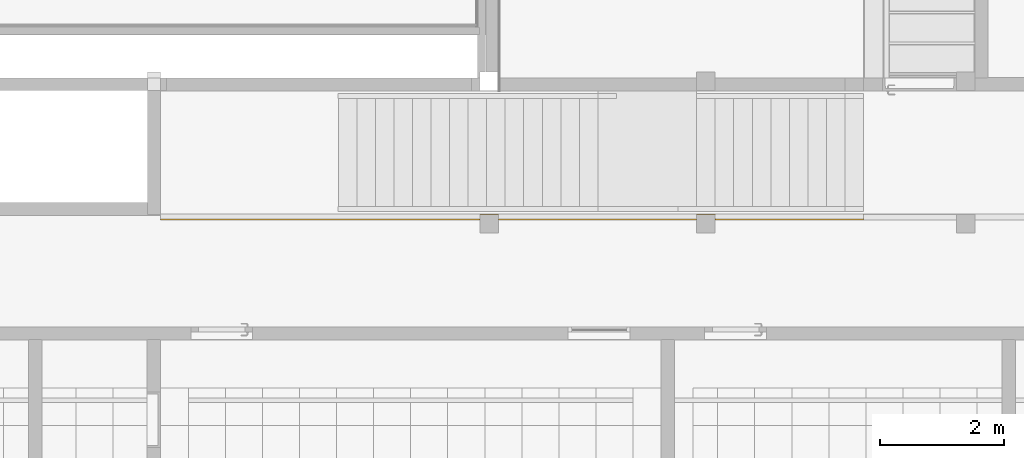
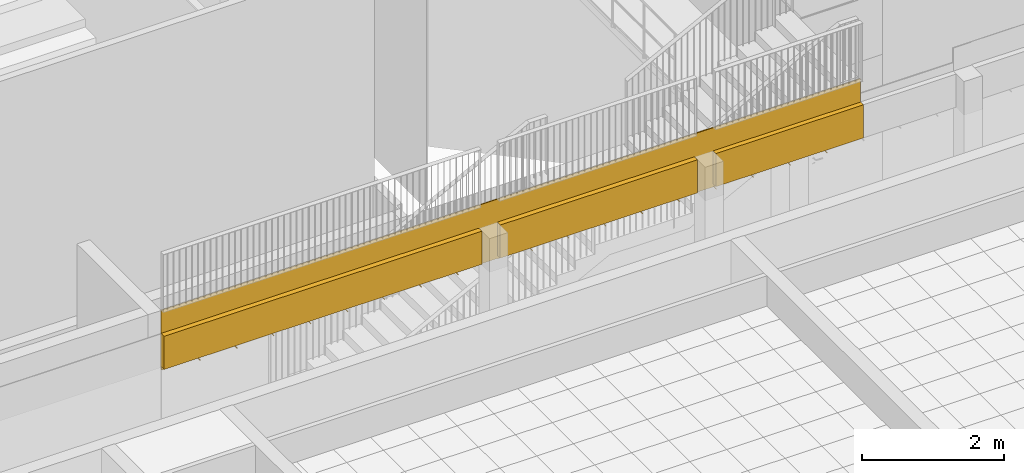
# One storey, part 170 of 246: 1 covering.
"""IFC2X3 building model written with IfcOpenShell, lengths in millimetres."""

import ifcopenshell
import ifcopenshell.guid

model = None  # the IFC model being written
_history = None  # IfcOwnerHistory: only IFC2X3 demands one
_inside = {}  # id of a spatial element -> (the spatial element, [elements in it])
_under = {}  # id of a project, library or spatial element -> (it, [spatial elements below it])
_declared = {}  # id of a project -> (the project, [libraries it declares])
_typed = {}  # id of a type object -> (the type object, [elements of that type])
_made_of = {}  # id of a material, layer set ... -> (it, [elements and type objects made of it])


def new_model(schema):
    """Start an empty IFC model of exactly this schema.

    Asked for "IFC4X3", IfcOpenShell would pick the latest addendum, in which some entities
    have other attributes; the version numbers below select the first issue.
    IFC2X3 requires an IfcOwnerHistory on every rooted entity: one is made here for all.
    """
    global model, _history
    if schema == "IFC4X3":
        model = ifcopenshell.file(schema_version=(4, 3, 0, 0))
    else:
        model = ifcopenshell.file(schema=schema)
    _inside.clear()
    _under.clear()
    _declared.clear()
    _typed.clear()
    _made_of.clear()
    _history = None
    if model.schema == "IFC2X3":
        org = make("IfcOrganization", Name="unknown")
        user = make(
            "IfcPersonAndOrganization",
            ThePerson=make("IfcPerson", FamilyName="unknown"),
            TheOrganization=org,
        )
        app = make(
            "IfcApplication",
            ApplicationDeveloper=org,
            Version="unknown",
            ApplicationFullName="unknown",
            ApplicationIdentifier="unknown",
        )
        _history = make(
            "IfcOwnerHistory",
            OwningUser=user,
            OwningApplication=app,
            ChangeAction="ADDED",
            CreationDate=0,
        )
    return model


def make(cls, **values):
    """One entity of the class cls with the attributes given. An attribute that is None is left unset."""
    return model.create_entity(
        cls, **{name: value for name, value in values.items() if value is not None}
    )


def entity(cls, *values):
    """Any entity or typed value of the class cls, its attributes in the order of the schema. None: left unset."""
    e = model.create_entity(cls)
    for i, value in enumerate(values):
        if value is not None:
            e[i] = value
    return e


def rooted(cls, **values):
    """An entity with a GlobalId (a new one), such as an element, a storey or a relation."""
    return make(cls, GlobalId=ifcopenshell.guid.new(), OwnerHistory=_history, **values)


def si_unit(unit_type, name, prefix=None):
    """IfcSIUnit, for example si_unit("LENGTHUNIT", "METRE", prefix="MILLI")."""
    return make("IfcSIUnit", UnitType=unit_type, Prefix=prefix, Name=name)


def converted_unit(unit_type, name, factor, base, dimensions=None, offset=None):
    """IfcConversionBasedUnit, such as the inch: factor (a typed value) times the base unit."""
    return make(
        "IfcConversionBasedUnit"
        if offset is None
        else "IfcConversionBasedUnitWithOffset",
        ConversionOffset=offset,
        Dimensions=None
        if dimensions is None
        else entity("IfcDimensionalExponents", *dimensions),
        UnitType=unit_type,
        Name=name,
        ConversionFactor=make(
            "IfcMeasureWithUnit", ValueComponent=factor, UnitComponent=base
        ),
    )


def derived_unit(unit_type, elements):
    """IfcDerivedUnit: a product of units, each with its exponent."""
    return make(
        "IfcDerivedUnit",
        Elements=[
            make("IfcDerivedUnitElement", Unit=unit, Exponent=power)
            for unit, power in elements
        ],
        UnitType=unit_type,
    )


def money_unit(currency):
    """IfcMonetaryUnit."""
    return make("IfcMonetaryUnit", Currency=currency)


def assignment(units):
    """IfcUnitAssignment: the units of a project."""
    return None if units is None else make("IfcUnitAssignment", Units=units)


def point(xyz):
    """IfcCartesianPoint."""
    return None if xyz is None else make("IfcCartesianPoint", Coordinates=xyz)


def direction(xyz):
    """IfcDirection."""
    return None if xyz is None else make("IfcDirection", DirectionRatios=xyz)


def frame(location, z_axis=None, x_axis=None):
    """IfcAxis2Placement3D, a coordinate frame: its origin and axes. An axis left out is left unset."""
    return make(
        "IfcAxis2Placement3D",
        Location=point(location),
        Axis=direction(z_axis),
        RefDirection=direction(x_axis),
    )


def origin_with_axes():
    """The frame at (0, 0, 0) with the z axis (0, 0, 1) and the x axis (1, 0, 0) written out."""
    return frame((0.0, 0.0, 0.0), z_axis=(0.0, 0.0, 1.0), x_axis=(1.0, 0.0, 0.0))


def place(relative_to, where):
    """IfcLocalPlacement: puts the frame where relative to a parent placement (None: the world)."""
    return make(
        "IfcLocalPlacement", PlacementRelTo=relative_to, RelativePlacement=where
    )


def context(
    kind, dimensions, precision=None, world=None, true_north=None, identifier=None
):
    """IfcGeometricRepresentationContext, for example the 3D "Model" context."""
    return make(
        "IfcGeometricRepresentationContext",
        ContextIdentifier=identifier,
        ContextType=kind,
        CoordinateSpaceDimension=dimensions,
        Precision=precision,
        WorldCoordinateSystem=world,
        TrueNorth=true_north,
    )


def subcontext(parent, identifier, kind, view, scale=None):
    """IfcGeometricRepresentationSubContext, for example "Body" below "Model"."""
    return make(
        "IfcGeometricRepresentationSubContext",
        ContextIdentifier=identifier,
        ContextType=kind,
        ParentContext=parent,
        TargetScale=scale,
        TargetView=view,
    )


def project(units=None, contexts=None):
    """IfcProject with its units and contexts."""
    return rooted(
        "IfcProject",
        Name="project",
        RepresentationContexts=contexts,
        UnitsInContext=assignment(units),
    )


def spatial(cls, under=None, at=None, **own):
    """A site, building, storey or space (cls), placed at a placement, below another one or the project."""
    s = rooted(cls, ObjectPlacement=at, **own)
    if under is not None:
        _under.setdefault(under.id(), (under, []))[1].append(s)
    return s


def faces_of(points, faces, orient=None, outer=None):
    """IfcFace entities. A face is a list of loops; a loop is a list of indices into points, from 0.

    orient and outer hold one flag for each loop. By default every Orientation is true, the
    first loop of a face is its IfcFaceOuterBound and the others are IfcFaceBound.
    """
    made = []
    for i, loops in enumerate(faces):
        bounds = []
        for j, loop in enumerate(loops):
            is_outer = j == 0 if outer is None else outer[i][j]
            bounds.append(
                make(
                    "IfcFaceOuterBound" if is_outer else "IfcFaceBound",
                    Bound=make("IfcPolyLoop", Polygon=[points[k] for k in loop]),
                    Orientation=True if orient is None else orient[i][j],
                )
            )
        made.append(make("IfcFace", Bounds=bounds))
    return made


def faceted_brep(points, faces, orient=None, outer=None, voids=None):
    """IfcFacetedBrep: a solid bounded by flat faces; with voids (closed shells), ...WithVoids."""
    shared = [point(p) for p in points]
    hull = make("IfcClosedShell", CfsFaces=faces_of(shared, faces, orient, outer))
    if voids is None:
        return make("IfcFacetedBrep", Outer=hull)
    return make(
        "IfcFacetedBrepWithVoids",
        Outer=hull,
        Voids=[
            make(cls, CfsFaces=faces_of(shared, fs, o, b)) for cls, fs, o, b in voids
        ],
    )


def shape(context_of_items, identifier, shape_type, items):
    """IfcShapeRepresentation: the items that make up one representation, for example the "Body"."""
    return make(
        "IfcShapeRepresentation",
        ContextOfItems=context_of_items,
        RepresentationIdentifier=identifier,
        RepresentationType=shape_type,
        Items=items,
    )


def material(Name=None, Category=None):
    """IfcMaterial."""
    return make("IfcMaterial", Name=Name, Category=Category)


def material_list(materials):
    """IfcMaterialList."""
    return make("IfcMaterialList", Materials=materials)


def made_of(thing, what):
    """Note that an element or type object is made of a material, layer set ...; save() writes the relation."""
    if what is not None:
        _made_of.setdefault(what.id(), (what, []))[1].append(thing)
    return thing


def type_object(cls, material=None, **own):
    """A type object (cls), such as IfcWallType, which elements share."""
    return made_of(rooted(cls, **own), material)


def element(
    cls,
    number,
    at=None,
    inside=None,
    cuts=None,
    type_object=None,
    material=None,
    context=None,
    identifier="Body",
    shape_type=None,
    held_by="IfcProductDefinitionShape",
    body=None,
    shapes=None,
    **own,
):
    """One element of the class cls, such as IfcWall. Its Tag is "e" and its number.

    at: its placement. inside: the storey or other place that contains it. cuts: it is an
    opening in that element (IfcRelVoidsElement). A single representation is given by context,
    identifier, shape_type and body (its items); several are given by shapes. held_by: the class
    of the entity that holds the representations. save() writes the other relations.
    """
    e = rooted(cls, Tag="e%d" % number, ObjectPlacement=at, **own)
    if body is not None:
        shapes = [shape(context, identifier, shape_type, body)]
    if shapes is not None:
        e.Representation = make(held_by, Representations=shapes)
    if inside is not None:
        _inside.setdefault(inside.id(), (inside, []))[1].append(e)
    if cuts is not None:
        rooted(
            "IfcRelVoidsElement", RelatingBuildingElement=cuts, RelatedOpeningElement=e
        )
    if type_object is not None:
        _typed.setdefault(type_object.id(), (type_object, []))[1].append(e)
    return made_of(e, material)


def aggregate(whole, parts):
    """IfcRelAggregates: a whole, such as a stair, and the parts it consists of."""
    return rooted("IfcRelAggregates", RelatingObject=whole, RelatedObjects=parts)


def save(model, path):
    """Write the relations noted so far, then the file.

    IfcRelAggregates (storeys below a building ...), IfcRelContainedInSpatialStructure (elements
    in a storey), IfcRelDefinesByType, IfcRelAssociatesMaterial and IfcRelDeclares: one each for
    every whole, place, type object, material and project.
    """
    for whole, parts in _under.values():
        aggregate(whole, parts)
    for where, things in _inside.values():
        rooted(
            "IfcRelContainedInSpatialStructure",
            RelatedElements=things,
            RelatingStructure=where,
        )
    for kind, things in _typed.values():
        rooted("IfcRelDefinesByType", RelatedObjects=things, RelatingType=kind)
    for what, things in _made_of.values():
        rooted("IfcRelAssociatesMaterial", RelatedObjects=things, RelatingMaterial=what)
    for by, libraries in _declared.values():
        rooted("IfcRelDeclares", RelatingContext=by, RelatedDefinitions=libraries)
    model.write(path)


model = new_model("IFC2X3")

# Units and contexts
model_context = context("Model", 3, precision=0.01, world=origin_with_axes(), true_north=direction((0.0, 1.0)))
body_context = subcontext(model_context, "Body", "Model", "MODEL_VIEW")
ifc_project = project(units=[si_unit("LENGTHUNIT", "METRE", prefix="MILLI"), si_unit("AREAUNIT", "SQUARE_METRE"), si_unit("VOLUMEUNIT", "CUBIC_METRE"), converted_unit("PLANEANGLEUNIT", "DEGREE", entity("IfcPlaneAngleMeasure", 0.0174532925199), si_unit("PLANEANGLEUNIT", "RADIAN"), dimensions=[0, 0, 0, 0, 0, 0, 0]), si_unit("SOLIDANGLEUNIT", "STERADIAN"), money_unit("EUR"), converted_unit("TIMEUNIT", "Year", entity("IfcTimeMeasure", 31556926.0), si_unit("TIMEUNIT", "SECOND"), dimensions=[0, 0, 1, 0, 0, 0, 0]), si_unit("MASSUNIT", "GRAM", prefix="KILO"), si_unit("THERMODYNAMICTEMPERATUREUNIT", "DEGREE_CELSIUS"), si_unit("LUMINOUSINTENSITYUNIT", "LUMEN"), si_unit("ENERGYUNIT", "JOULE", prefix="MEGA"), derived_unit("THERMALCONDUCTANCEUNIT", [(si_unit("POWERUNIT", "WATT"), 1), (si_unit("LENGTHUNIT", "METRE"), -1), (si_unit("THERMODYNAMICTEMPERATUREUNIT", "KELVIN"), -1)]), derived_unit("SPECIFICHEATCAPACITYUNIT", [(si_unit("ENERGYUNIT", "JOULE"), 1), (si_unit("MASSUNIT", "GRAM", prefix="KILO"), -1), (si_unit("THERMODYNAMICTEMPERATUREUNIT", "KELVIN"), -1)]), derived_unit("MASSDENSITYUNIT", [(si_unit("MASSUNIT", "GRAM", prefix="KILO"), 1), (si_unit("VOLUMEUNIT", "CUBIC_METRE"), -1)])], contexts=[model_context])

# Site, building, storey
site_placement = place(None, origin_with_axes())
site = spatial("IfcSite", under=ifc_project, at=site_placement, Name="L.Koidula tn 11b", CompositionType="ELEMENT")
building_placement = place(site_placement, origin_with_axes())
building = spatial("IfcBuilding", under=site, at=building_placement, Name="Rakvere Riigigümnaasium", CompositionType="ELEMENT")
storey_placement = place(building_placement, origin_with_axes())
storey = spatial("IfcBuildingStorey", under=building, at=storey_placement, Name="1.korrus 0,00", CompositionType="ELEMENT", Elevation=0.0)

# Covering
ifc_material_1 = material(Name="Karkass")
ifc_material_2 = material(Name="Kipsplaat")
ifc_material_3 = material(Name="Alumiiniumprofiil")
ifc_material_4 = material(Name="Keraamiline plaat valge")
ifc_material_list = material_list([ifc_material_1, ifc_material_2, ifc_material_3, ifc_material_3, ifc_material_4])
covering_type = type_object("IfcCoveringType", Name="SA-Pinnakate-Ker 99", PredefinedType="CEILING")
covering_placement = place(storey_placement, frame((64090.0000003, 15100.4785302, 2700.0), z_axis=(0.0, 0.0, 1.0), x_axis=(-1.0, 0.0, 0.0)))
element("IfcCovering", 1, at=covering_placement, inside=storey, type_object=covering_type, material=ifc_material_list, Name="Pinnakate-keraamiline", PredefinedType="CEILING", context=body_context, shape_type="Brep", body=[
    faceted_brep([(5392.50192742, 17.5, 0.0), (5392.50192742, 17.5, 12.0), (5387.50192742, 17.5, 12.0), (5387.50192742, 17.5, 0.0), (5392.50192742, 83.5, 0.0), (5392.50192742, 83.5, 12.0), (5387.50192742, 83.5, 12.0), (5387.50192742, 83.5, 0.0)], [[[0, 1, 2, 3]], [[1, 0, 4, 5]], [[2, 1, 5, 6]], [[3, 2, 6, 7]], [[4, 0, 3, 7]], [[5, 4, 7, 6]]]),
    faceted_brep([(2392.50192742, 17.5, 0.0), (2392.50192742, 17.5, 12.0), (2387.50192742, 17.5, 12.0), (2387.50192742, 17.5, 0.0), (2392.50192742, 83.5, 0.0), (2392.50192742, 83.5, 12.0), (2387.50192742, 83.5, 12.0), (2387.50192742, 83.5, 0.0)], [[[0, 1, 2, 3]], [[1, 0, 4, 5]], [[2, 1, 5, 6]], [[3, 2, 6, 7]], [[4, 0, 3, 7]], [[5, 4, 7, 6]]]),
    faceted_brep([(10792.5019274, 17.5, 0.0), (10792.5019274, 17.5, 12.0), (10787.5019274, 17.5, 12.0), (10787.5019274, 17.5, 0.0), (10792.5019274, 83.5, 0.0), (10792.5019274, 83.5, 12.0), (10787.5019274, 83.5, 12.0), (10787.5019274, 83.5, 0.0)], [[[0, 1, 2, 3]], [[1, 0, 4, 5]], [[2, 1, 5, 6]], [[3, 2, 6, 7]], [[4, 0, 3, 7]], [[5, 4, 7, 6]]]),
    faceted_brep([(2700.0, 83.5, 54.5), (2700.0, 17.5, 54.5), (2700.0, 17.5, 625.0), (2700.0, 83.5, 625.0), (5909.9651902, 17.5, 54.5), (5909.9651902, 83.5, 54.5), (5909.9651902, 17.5, 625.0), (5909.9651902, 83.5, 625.0)], [[[0, 1, 2, 3]], [[4, 1, 0, 5]], [[1, 4, 6, 2]], [[7, 3, 2, 6]], [[5, 0, 3, 7]], [[4, 5, 7, 6]]]),
    faceted_brep([(0.0, 83.5, 54.5), (0.0, 17.5, 54.5), (0.0, 17.5, 625.0), (0.0, 83.5, 625.0), (2400.0, 17.5, 54.5), (2400.0, 83.5, 54.5), (2400.0, 17.5, 625.0), (2400.0, 83.5, 625.0)], [[[0, 1, 2, 3]], [[4, 1, 0, 5]], [[1, 4, 6, 2]], [[2, 6, 7, 3]], [[5, 0, 3, 7]], [[4, 5, 7, 6]]]),
    faceted_brep([(6209.9651902, 83.5, 54.5), (6209.9651902, 17.5, 54.5), (6209.9651902, 17.5, 625.0), (6209.9651902, 83.5, 625.0), (11380.0000066, 17.5, 54.5), (11380.0000066, 83.5, 54.5), (11380.0000066, 17.5, 625.0), (11380.0000066, 83.5, 625.0)], [[[0, 1, 2, 3]], [[4, 1, 0, 5]], [[1, 4, 6, 2]], [[7, 3, 2, 6]], [[5, 0, 3, 7]], [[4, 5, 7, 6]]]),
    faceted_brep([(4792.50192742, 17.5, 0.0), (4792.50192742, 17.5, 12.0), (4787.50192742, 17.5, 12.0), (4787.50192742, 17.5, 0.0), (4792.50192742, 83.5, 0.0), (4792.50192742, 83.5, 12.0), (4787.50192742, 83.5, 12.0), (4787.50192742, 83.5, 0.0)], [[[0, 1, 2, 3]], [[1, 0, 4, 5]], [[2, 1, 5, 6]], [[3, 2, 6, 7]], [[4, 0, 3, 7]], [[5, 4, 7, 6]]]),
    faceted_brep([(4192.50192742, 17.5, 0.0), (4192.50192742, 17.5, 12.0), (4187.50192742, 17.5, 12.0), (4187.50192742, 17.5, 0.0), (4192.50192742, 83.5, 0.0), (4192.50192742, 83.5, 12.0), (4187.50192742, 83.5, 12.0), (4187.50192742, 83.5, 0.0)], [[[0, 1, 2, 3]], [[1, 0, 4, 5]], [[2, 1, 5, 6]], [[3, 2, 6, 7]], [[4, 0, 3, 7]], [[5, 4, 7, 6]]]),
    faceted_brep([(3592.50192742, 17.5, 0.0), (3592.50192742, 17.5, 12.0), (3587.50192742, 17.5, 12.0), (3587.50192742, 17.5, 0.0), (3592.50192742, 83.5, 0.0), (3592.50192742, 83.5, 12.0), (3587.50192742, 83.5, 12.0), (3587.50192742, 83.5, 0.0)], [[[0, 1, 2, 3]], [[1, 0, 4, 5]], [[2, 1, 5, 6]], [[3, 2, 6, 7]], [[4, 0, 3, 7]], [[5, 4, 7, 6]]]),
    faceted_brep([(2992.50192742, 17.5, 0.0), (2992.50192742, 17.5, 12.0), (2987.50192742, 17.5, 12.0), (2987.50192742, 17.5, 0.0), (2992.50192742, 83.5, 0.0), (2992.50192742, 83.5, 12.0), (2987.50192742, 83.5, 12.0), (2987.50192742, 83.5, 0.0)], [[[0, 1, 2, 3]], [[1, 0, 4, 5]], [[2, 1, 5, 6]], [[3, 2, 6, 7]], [[4, 0, 3, 7]], [[5, 4, 7, 6]]]),
    faceted_brep([(1792.50192742, 17.5, 0.0), (1792.50192742, 17.5, 12.0), (1787.50192742, 17.5, 12.0), (1787.50192742, 17.5, 0.0), (1792.50192742, 83.5, 0.0), (1792.50192742, 83.5, 12.0), (1787.50192742, 83.5, 12.0), (1787.50192742, 83.5, 0.0)], [[[0, 1, 2, 3]], [[1, 0, 4, 5]], [[2, 1, 5, 6]], [[3, 2, 6, 7]], [[4, 0, 3, 7]], [[5, 4, 7, 6]]]),
    faceted_brep([(1192.50192742, 17.5, 0.0), (1192.50192742, 17.5, 12.0), (1187.50192742, 17.5, 12.0), (1187.50192742, 17.5, 0.0), (1192.50192742, 83.5, 0.0), (1192.50192742, 83.5, 12.0), (1187.50192742, 83.5, 12.0), (1187.50192742, 83.5, 0.0)], [[[0, 1, 2, 3]], [[1, 0, 4, 5]], [[2, 1, 5, 6]], [[3, 2, 6, 7]], [[4, 0, 3, 7]], [[5, 4, 7, 6]]]),
    faceted_brep([(592.501927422, 17.5, 0.0), (592.501927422, 17.5, 12.0), (587.501927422, 17.5, 12.0), (587.501927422, 17.5, 0.0), (592.501927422, 83.5, 0.0), (592.501927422, 83.5, 12.0), (587.501927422, 83.5, 12.0), (587.501927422, 83.5, 0.0)], [[[0, 1, 2, 3]], [[1, 0, 4, 5]], [[2, 1, 5, 6]], [[3, 2, 6, 7]], [[4, 0, 3, 7]], [[5, 4, 7, 6]]]),
    faceted_brep([(10192.5019274, 17.5, 0.0), (10192.5019274, 17.5, 12.0), (10187.5019274, 17.5, 12.0), (10187.5019274, 17.5, 0.0), (10192.5019274, 83.5, 0.0), (10192.5019274, 83.5, 12.0), (10187.5019274, 83.5, 12.0), (10187.5019274, 83.5, 0.0)], [[[0, 1, 2, 3]], [[1, 0, 4, 5]], [[2, 1, 5, 6]], [[3, 2, 6, 7]], [[4, 0, 3, 7]], [[5, 4, 7, 6]]]),
    faceted_brep([(9592.50192742, 17.5, 0.0), (9592.50192742, 17.5, 12.0), (9587.50192742, 17.5, 12.0), (9587.50192742, 17.5, 0.0), (9592.50192742, 83.5, 0.0), (9592.50192742, 83.5, 12.0), (9587.50192742, 83.5, 12.0), (9587.50192742, 83.5, 0.0)], [[[0, 1, 2, 3]], [[1, 0, 4, 5]], [[2, 1, 5, 6]], [[3, 2, 6, 7]], [[4, 0, 3, 7]], [[5, 4, 7, 6]]]),
    faceted_brep([(8992.50192742, 17.5, 0.0), (8992.50192742, 17.5, 12.0), (8987.50192742, 17.5, 12.0), (8987.50192742, 17.5, 0.0), (8992.50192742, 83.5, 0.0), (8992.50192742, 83.5, 12.0), (8987.50192742, 83.5, 12.0), (8987.50192742, 83.5, 0.0)], [[[0, 1, 2, 3]], [[1, 0, 4, 5]], [[2, 1, 5, 6]], [[3, 2, 6, 7]], [[4, 0, 3, 7]], [[5, 4, 7, 6]]]),
    faceted_brep([(8392.50192742, 17.5, 0.0), (8392.50192742, 17.5, 12.0), (8387.50192742, 17.5, 12.0), (8387.50192742, 17.5, 0.0), (8392.50192742, 83.5, 0.0), (8392.50192742, 83.5, 12.0), (8387.50192742, 83.5, 12.0), (8387.50192742, 83.5, 0.0)], [[[0, 1, 2, 3]], [[1, 0, 4, 5]], [[2, 1, 5, 6]], [[3, 2, 6, 7]], [[4, 0, 3, 7]], [[5, 4, 7, 6]]]),
    faceted_brep([(7792.50192742, 17.5, 0.0), (7792.50192742, 17.5, 12.0), (7787.50192742, 17.5, 12.0), (7787.50192742, 17.5, 0.0), (7792.50192742, 83.5, 0.0), (7792.50192742, 83.5, 12.0), (7787.50192742, 83.5, 12.0), (7787.50192742, 83.5, 0.0)], [[[0, 1, 2, 3]], [[1, 0, 4, 5]], [[2, 1, 5, 6]], [[3, 2, 6, 7]], [[4, 0, 3, 7]], [[5, 4, 7, 6]]]),
    faceted_brep([(7192.50192742, 17.5, 0.0), (7192.50192742, 17.5, 12.0), (7187.50192742, 17.5, 12.0), (7187.50192742, 17.5, 0.0), (7192.50192742, 83.5, 0.0), (7192.50192742, 83.5, 12.0), (7187.50192742, 83.5, 12.0), (7187.50192742, 83.5, 0.0)], [[[0, 1, 2, 3]], [[1, 0, 4, 5]], [[2, 1, 5, 6]], [[3, 2, 6, 7]], [[4, 0, 3, 7]], [[5, 4, 7, 6]]]),
    faceted_brep([(6592.50192742, 17.5, 0.0), (6592.50192742, 17.5, 12.0), (6587.50192742, 17.5, 12.0), (6587.50192742, 17.5, 0.0), (6592.50192742, 83.5, 0.0), (6592.50192742, 83.5, 12.0), (6587.50192742, 83.5, 12.0), (6587.50192742, 83.5, 0.0)], [[[0, 1, 2, 3]], [[1, 0, 4, 5]], [[2, 1, 5, 6]], [[3, 2, 6, 7]], [[4, 0, 3, 7]], [[5, 4, 7, 6]]]),
    faceted_brep([(5909.9651902, 10.0, 54.5), (5909.9651902, 10.0, 0.0), (5392.50192742, 10.0, 0.0), (5392.50192742, 10.0007223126, 12.0), (5387.50192742, 10.0007209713, 12.0), (5387.50192742, 10.0, 0.0), (4792.50192742, 10.0, 0.0), (4792.50192742, 10.0005613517, 12.0), (4787.50192742, 10.0005600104, 12.0), (4787.50192742, 10.0, 0.0), (4192.50192742, 10.0, 0.0), (4192.50192742, 10.0004003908, 12.0), (4187.50192742, 10.0003990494, 12.0), (4187.50192742, 10.0, 0.0), (3592.50192742, 10.0, 0.0), (3592.50192742, 10.0002394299, 12.0), (3587.50192742, 10.0002380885, 12.0), (3587.50192742, 10.0, 0.0), (2992.50192742, 10.0, 0.0), (2992.50192742, 10.000078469, 12.0), (2987.50192742, 10.0000771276, 12.0), (2987.50192742, 10.0, 0.0), (2700.0, 10.0, 0.0), (2700.0, 10.0, 54.5), (5909.9651902, 17.5, 54.5), (5909.9651902, 17.5, 625.0), (5909.9651902, 5.0, 625.0), (5909.9651902, 5.0, 0.0), (2700.0, 5.0, 0.0), (2987.50192742, 17.5, 0.0), (2992.50192742, 17.5, 0.0), (3587.50192742, 17.5, 0.0), (3592.50192742, 17.5, 0.0), (4187.50192742, 17.5, 0.0), (4192.50192742, 17.5, 0.0), (4787.50192742, 17.5, 0.0), (4792.50192742, 17.5, 0.0), (5387.50192742, 17.5, 0.0), (5392.50192742, 17.5, 0.0), (5392.50192742, 17.5, 12.0), (5387.50192742, 17.5, 12.0), (4792.50192742, 17.5, 12.0), (4787.50192742, 17.5, 12.0), (4192.50192742, 17.5, 12.0), (4187.50192742, 17.5, 12.0), (3592.50192742, 17.5, 12.0), (3587.50192742, 17.5, 12.0), (2992.50192742, 17.5, 12.0), (2987.50192742, 17.5, 12.0), (2700.0, 5.0, 625.0), (2700.0, 17.5, 625.0), (2700.0, 17.5, 54.5)], [[[0, 1, 2, 3, 4, 5, 6, 7, 8, 9, 10, 11, 12, 13, 14, 15, 16, 17, 18, 19, 20, 21, 22, 23]], [[1, 0, 24, 25, 26, 27]], [[2, 1, 27, 28, 22, 21, 29, 30, 18, 17, 31, 32, 14, 13, 33, 34, 10, 9, 35, 36, 6, 5, 37, 38]], [[2, 38, 39, 3]], [[39, 40, 4, 3]], [[37, 5, 4, 40]], [[6, 36, 41, 7]], [[41, 42, 8, 7]], [[35, 9, 8, 42]], [[10, 34, 43, 11]], [[43, 44, 12, 11]], [[33, 13, 12, 44]], [[14, 32, 45, 15]], [[45, 46, 16, 15]], [[31, 17, 16, 46]], [[18, 30, 47, 19]], [[47, 48, 20, 19]], [[29, 21, 20, 48]], [[22, 28, 49, 50, 51, 23]], [[23, 51, 24, 0]], [[24, 51, 50, 25]], [[25, 50, 49, 26]], [[26, 49, 28, 27]], [[47, 30, 29, 48]], [[45, 32, 31, 46]], [[43, 34, 33, 44]], [[41, 36, 35, 42]], [[39, 38, 37, 40]]]),
    faceted_brep([(2392.50192742, 5.0, 0.0), (2392.50192742, 5.0, 12.0), (2387.50192742, 5.0, 12.0), (2387.50192742, 5.0, 0.0), (2392.50192742, 17.5, 0.0), (2392.50192742, 17.5, 12.0), (2387.50192742, 17.5, 12.0), (2387.50192742, 17.5, 0.0)], [[[0, 1, 2, 3]], [[1, 0, 4, 5]], [[2, 1, 5, 6]], [[3, 2, 6, 7]], [[4, 0, 3, 7]], [[5, 4, 7, 6]]]),
    faceted_brep([(11380.0000066, 10.0, 54.5), (11380.0000066, 10.0, 0.0), (10792.5019274, 10.0, 0.0), (10792.5019274, 10.0012293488, 12.0), (10787.5019274, 10.0012280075, 12.0), (10787.5019274, 10.0, 0.0), (10192.5019274, 10.0, 0.0), (10192.5019274, 10.0010683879, 12.0), (10187.5019274, 10.0010670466, 12.0), (10187.5019274, 10.0, 0.0), (9592.50192742, 10.0, 0.0), (9592.50192742, 10.000907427, 12.0), (9587.50192742, 10.0009060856, 12.0), (9587.50192742, 10.0, 0.0), (8992.50192742, 10.0, 0.0), (8992.50192742, 10.0007464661, 12.0), (8987.50192742, 10.0007451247, 12.0), (8987.50192742, 10.0, 0.0), (8392.50192742, 10.0, 0.0), (8392.50192742, 10.0005855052, 12.0), (8387.50192742, 10.0005841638, 12.0), (8387.50192742, 10.0, 0.0), (7792.50192742, 10.0, 0.0), (7792.50192742, 10.0004245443, 12.0), (7787.50192742, 10.0004232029, 12.0), (7787.50192742, 10.0, 0.0), (7192.50192742, 10.0, 0.0), (7192.50192742, 10.0002635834, 12.0), (7187.50192742, 10.000262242, 12.0), (7187.50192742, 10.0, 0.0), (6592.50192742, 10.0, 0.0), (6592.50192742, 10.0001026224, 12.0), (6587.50192742, 10.0001012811, 12.0), (6587.50192742, 10.0, 0.0), (6209.9651902, 10.0, 0.0), (6209.9651902, 10.0, 54.5), (11380.0000066, 17.5, 54.5), (11380.0000066, 17.5, 625.0), (11380.0000066, 5.0, 625.0), (11380.0000066, 5.0, 0.0), (6209.9651902, 5.0, 0.0), (6587.50192742, 17.5, 0.0), (6592.50192742, 17.5, 0.0), (7187.50192742, 17.5, 0.0), (7192.50192742, 17.5, 0.0), (7787.50192742, 17.5, 0.0), (7792.50192742, 17.5, 0.0), (8387.50192742, 17.5, 0.0), (8392.50192742, 17.5, 0.0), (8987.50192742, 17.5, 0.0), (8992.50192742, 17.5, 0.0), (9587.50192742, 17.5, 0.0), (9592.50192742, 17.5, 0.0), (10187.5019274, 17.5, 0.0), (10192.5019274, 17.5, 0.0), (10787.5019274, 17.5, 0.0), (10792.5019274, 17.5, 0.0), (10792.5019274, 17.5, 12.0), (10787.5019274, 17.5, 12.0), (10192.5019274, 17.5, 12.0), (10187.5019274, 17.5, 12.0), (9592.50192742, 17.5, 12.0), (9587.50192742, 17.5, 12.0), (8992.50192742, 17.5, 12.0), (8987.50192742, 17.5, 12.0), (8392.50192742, 17.5, 12.0), (8387.50192742, 17.5, 12.0), (7792.50192742, 17.5, 12.0), (7787.50192742, 17.5, 12.0), (7192.50192742, 17.5, 12.0), (7187.50192742, 17.5, 12.0), (6592.50192742, 17.5, 12.0), (6587.50192742, 17.5, 12.0), (6209.9651902, 5.0, 625.0), (6209.9651902, 17.5, 625.0), (6209.9651902, 17.5, 54.5)], [[[0, 1, 2, 3, 4, 5, 6, 7, 8, 9, 10, 11, 12, 13, 14, 15, 16, 17, 18, 19, 20, 21, 22, 23, 24, 25, 26, 27, 28, 29, 30, 31, 32, 33, 34, 35]], [[1, 0, 36, 37, 38, 39]], [[2, 1, 39, 40, 34, 33, 41, 42, 30, 29, 43, 44, 26, 25, 45, 46, 22, 21, 47, 48, 18, 17, 49, 50, 14, 13, 51, 52, 10, 9, 53, 54, 6, 5, 55, 56]], [[2, 56, 57, 3]], [[57, 58, 4, 3]], [[55, 5, 4, 58]], [[6, 54, 59, 7]], [[59, 60, 8, 7]], [[53, 9, 8, 60]], [[10, 52, 61, 11]], [[61, 62, 12, 11]], [[51, 13, 12, 62]], [[14, 50, 63, 15]], [[63, 64, 16, 15]], [[49, 17, 16, 64]], [[18, 48, 65, 19]], [[65, 66, 20, 19]], [[47, 21, 20, 66]], [[22, 46, 67, 23]], [[67, 68, 24, 23]], [[45, 25, 24, 68]], [[26, 44, 69, 27]], [[69, 70, 28, 27]], [[43, 29, 28, 70]], [[30, 42, 71, 31]], [[71, 72, 32, 31]], [[41, 33, 32, 72]], [[34, 40, 73, 74, 75, 35]], [[35, 75, 36, 0]], [[36, 75, 74, 37]], [[37, 74, 73, 38]], [[38, 73, 40, 39]], [[71, 42, 41, 72]], [[69, 44, 43, 70]], [[67, 46, 45, 68]], [[65, 48, 47, 66]], [[63, 50, 49, 64]], [[61, 52, 51, 62]], [[59, 54, 53, 60]], [[57, 56, 55, 58]]]),
    faceted_brep([(0.0, 17.5, 54.5), (0.0, 5.0, 54.5), (0.0, 5.0, 625.0), (0.0, 17.5, 625.0), (2400.0, 5.0, 54.5), (2400.0, 17.5, 54.5), (2400.0, 5.0, 625.0), (2400.0, 17.5, 625.0)], [[[0, 1, 2, 3]], [[4, 1, 0, 5]], [[1, 4, 6, 2]], [[2, 6, 7, 3]], [[5, 0, 3, 7]], [[4, 5, 7, 6]]]),
    faceted_brep([(1792.50192742, 5.0, 0.0), (1792.50192742, 5.0, 12.0), (1787.50192742, 5.0, 12.0), (1787.50192742, 5.0, 0.0), (1792.50192742, 17.5, 0.0), (1792.50192742, 17.5, 12.0), (1787.50192742, 17.5, 12.0), (1787.50192742, 17.5, 0.0)], [[[0, 1, 2, 3]], [[1, 0, 4, 5]], [[2, 1, 5, 6]], [[3, 2, 6, 7]], [[4, 0, 3, 7]], [[5, 4, 7, 6]]]),
    faceted_brep([(1192.50192742, 5.0, 0.0), (1192.50192742, 5.0, 12.0), (1187.50192742, 5.0, 12.0), (1187.50192742, 5.0, 0.0), (1192.50192742, 17.5, 0.0), (1192.50192742, 17.5, 12.0), (1187.50192742, 17.5, 12.0), (1187.50192742, 17.5, 0.0)], [[[0, 1, 2, 3]], [[1, 0, 4, 5]], [[2, 1, 5, 6]], [[3, 2, 6, 7]], [[4, 0, 3, 7]], [[5, 4, 7, 6]]]),
    faceted_brep([(592.501927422, 5.0, 0.0), (592.501927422, 5.0, 12.0), (587.501927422, 5.0, 12.0), (587.501927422, 5.0, 0.0), (592.501927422, 17.5, 0.0), (592.501927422, 17.5, 12.0), (587.501927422, 17.5, 12.0), (587.501927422, 17.5, 0.0)], [[[0, 1, 2, 3]], [[1, 0, 4, 5]], [[2, 1, 5, 6]], [[3, 2, 6, 7]], [[4, 0, 3, 7]], [[5, 4, 7, 6]]]),
    faceted_brep([(0.0, 0.0230084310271, 54.5), (2400.0, 0.0230084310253, 54.5), (2400.0, 0.0230084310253, 625.0), (2700.0, 0.0230084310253, 625.0), (2700.0, 0.0230084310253, 0.0), (2400.0, 0.0230084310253, 0.0), (2392.50192742, 0.0230084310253, 0.0), (2392.50192742, 0.0240553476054, 12.0), (2387.50192742, 0.0240540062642, 12.0), (2387.50192742, 0.0230084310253, 0.0), (1792.50192742, 0.0230084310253, 0.0), (1792.50192742, 0.0238943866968, 12.0), (1787.50192742, 0.0238930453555, 12.0), (1787.50192742, 0.0230084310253, 0.0), (1192.50192742, 0.0230084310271, 0.0), (1192.50192742, 0.0237334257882, 12.0), (1187.50192742, 0.0237320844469, 12.0), (1187.50192742, 0.0230084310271, 0.0), (592.501927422, 0.0230084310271, 0.0), (592.501927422, 0.0235724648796, 12.0), (587.501927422, 0.0235711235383, 12.0), (587.501927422, 0.0230084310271, 0.0), (0.0, 0.0230084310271, 0.0), (0.0, 5.0, 54.5), (2400.0, 5.0, 54.5), (2400.0, 5.0, 625.0), (5909.9651902, 5.0, 625.0), (2700.0, 5.0, 625.0), (0.0, 5.0, 625.0), (0.0, 0.0, 625.0), (5909.9651902, 4.88138951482e-06, 625.0), (2700.0, 5.0, 0.0), (5909.9651902, 5.0, 0.0), (5909.9651902, 4.88138951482e-06, 0.0), (0.0, 0.0, 0.0), (587.501927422, 5.0, 0.0), (592.501927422, 5.0, 0.0), (1187.50192742, 5.0, 0.0), (1192.50192742, 5.0, 0.0), (1787.50192742, 5.0, 0.0), (1792.50192742, 5.0, 0.0), (2387.50192742, 5.0, 0.0), (2392.50192742, 5.0, 0.0), (2392.50192742, 5.0, 12.0), (2387.50192742, 5.0, 12.0), (1792.50192742, 5.0, 12.0), (1787.50192742, 5.0, 12.0), (1192.50192742, 5.0, 12.0), (1187.50192742, 5.0, 12.0), (592.501927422, 5.0, 12.0), (587.501927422, 5.0, 12.0)], [[[0, 1, 2, 3, 4, 5, 6, 7, 8, 9, 10, 11, 12, 13, 14, 15, 16, 17, 18, 19, 20, 21, 22]], [[0, 23, 24, 1]], [[1, 24, 25, 2]], [[26, 27, 3, 2, 25, 28, 29, 30]], [[4, 3, 27, 31]], [[6, 5, 4, 31, 32, 33, 34, 22, 21, 35, 36, 18, 17, 37, 38, 14, 13, 39, 40, 10, 9, 41, 42]], [[6, 42, 43, 7]], [[43, 44, 8, 7]], [[41, 9, 8, 44]], [[10, 40, 45, 11]], [[45, 46, 12, 11]], [[39, 13, 12, 46]], [[14, 38, 47, 15]], [[47, 48, 16, 15]], [[37, 17, 16, 48]], [[18, 36, 49, 19]], [[49, 50, 20, 19]], [[35, 21, 20, 50]], [[0, 22, 34, 29, 28, 23]], [[24, 23, 28, 25]], [[32, 31, 27, 26]], [[29, 34, 33, 30]], [[33, 32, 26, 30]], [[49, 36, 35, 50]], [[47, 38, 37, 48]], [[45, 40, 39, 46]], [[43, 42, 41, 44]]]),
    faceted_brep([(11380.0000066, 5.0, 625.0), (6209.9651902, 5.0, 625.0), (6209.9651902, 4.88138951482e-06, 625.0), (11380.0000066, 0.0, 625.0), (11380.0000066, 5.0, 0.0), (6209.9651902, 5.0, 0.0), (6209.9651902, 4.88138951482e-06, 0.0), (11380.0000066, 0.0, 0.0)], [[[0, 1, 2, 3]], [[4, 5, 1, 0]], [[5, 6, 2, 1]], [[3, 2, 6, 7]], [[7, 4, 0, 3]], [[7, 6, 5, 4]]]),
    faceted_brep([(11380.0000066, -10.0, 0.0), (0.0, -10.0, 0.0), (0.0, 0.0, 0.0), (11380.0000066, 0.0, 0.0), (11380.0000066, -10.0, 1020.0), (0.0, -10.0, 1020.0), (0.0, 0.0, 1020.0), (11380.0000066, 0.0, 1020.0)], [[[0, 1, 2, 3]], [[4, 5, 1, 0]], [[1, 5, 6, 2]], [[3, 2, 6, 7]], [[7, 4, 0, 3]], [[7, 6, 5, 4]]]),
    faceted_brep([(0.0, -15.0, 0.0), (0.0, -10.0, 0.0), (11380.0000066, -10.0, 0.0), (11380.0000066, -15.0, 0.0), (0.0, -15.0, 1020.0), (0.0, -10.0, 1020.0), (11380.0000066, -10.0, 1020.0), (11380.0000066, -15.0, 1020.0)], [[[0, 1, 2, 3]], [[4, 5, 1, 0]], [[1, 5, 6, 2]], [[7, 3, 2, 6]], [[4, 0, 3, 7]], [[5, 4, 7, 6]]]),
])

save(model, "model.ifc")
